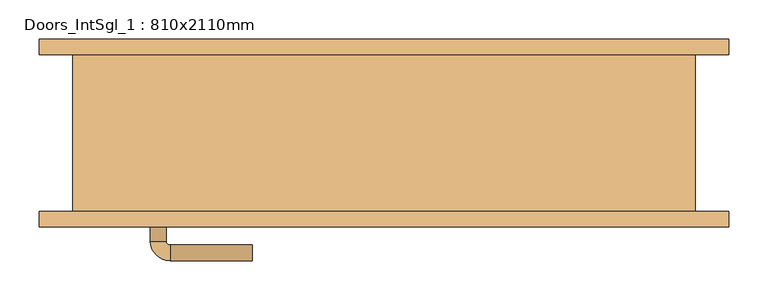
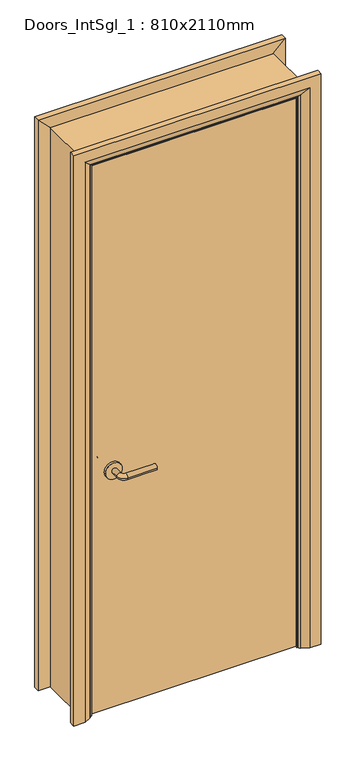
"""IFC4 building model written with IfcOpenShell, lengths in millimetres: door geometry, Doors_IntSgl_1 : 810x2110mm."""

import ifcopenshell
import ifcopenshell.guid

model = None  # the IFC model being written
_history = None  # IfcOwnerHistory: only IFC2X3 demands one
_inside = {}  # id of a spatial element -> (the spatial element, [elements in it])
_under = {}  # id of a project, library or spatial element -> (it, [spatial elements below it])
_declared = {}  # id of a project -> (the project, [libraries it declares])
_typed = {}  # id of a type object -> (the type object, [elements of that type])
_made_of = {}  # id of a material, layer set ... -> (it, [elements and type objects made of it])


def new_model(schema):
    """Start an empty IFC model of exactly this schema.

    Asked for "IFC4X3", IfcOpenShell would pick the latest addendum, in which some entities
    have other attributes; the version numbers below select the first issue.
    IFC2X3 requires an IfcOwnerHistory on every rooted entity: one is made here for all.
    """
    global model, _history
    if schema == "IFC4X3":
        model = ifcopenshell.file(schema_version=(4, 3, 0, 0))
    else:
        model = ifcopenshell.file(schema=schema)
    _inside.clear()
    _under.clear()
    _declared.clear()
    _typed.clear()
    _made_of.clear()
    _history = None
    if model.schema == "IFC2X3":
        org = make("IfcOrganization", Name="unknown")
        user = make(
            "IfcPersonAndOrganization",
            ThePerson=make("IfcPerson", FamilyName="unknown"),
            TheOrganization=org,
        )
        app = make(
            "IfcApplication",
            ApplicationDeveloper=org,
            Version="unknown",
            ApplicationFullName="unknown",
            ApplicationIdentifier="unknown",
        )
        _history = make(
            "IfcOwnerHistory",
            OwningUser=user,
            OwningApplication=app,
            ChangeAction="ADDED",
            CreationDate=0,
        )
    return model


def make(cls, **values):
    """One entity of the class cls with the attributes given. An attribute that is None is left unset."""
    return model.create_entity(
        cls, **{name: value for name, value in values.items() if value is not None}
    )


def rooted(cls, **values):
    """An entity with a GlobalId (a new one), such as an element, a storey or a relation."""
    return make(cls, GlobalId=ifcopenshell.guid.new(), OwnerHistory=_history, **values)


def si_unit(unit_type, name, prefix=None):
    """IfcSIUnit, for example si_unit("LENGTHUNIT", "METRE", prefix="MILLI")."""
    return make("IfcSIUnit", UnitType=unit_type, Prefix=prefix, Name=name)


def assignment(units):
    """IfcUnitAssignment: the units of a project."""
    return None if units is None else make("IfcUnitAssignment", Units=units)


def point(xyz):
    """IfcCartesianPoint."""
    return None if xyz is None else make("IfcCartesianPoint", Coordinates=xyz)


def direction(xyz):
    """IfcDirection."""
    return None if xyz is None else make("IfcDirection", DirectionRatios=xyz)


def frame(location, z_axis=None, x_axis=None):
    """IfcAxis2Placement3D, a coordinate frame: its origin and axes. An axis left out is left unset."""
    return make(
        "IfcAxis2Placement3D",
        Location=point(location),
        Axis=direction(z_axis),
        RefDirection=direction(x_axis),
    )


def frame_2d(location, x_axis=None):
    """IfcAxis2Placement2D, a coordinate frame in the plane: its origin and x axis."""
    return make(
        "IfcAxis2Placement2D", Location=point(location), RefDirection=direction(x_axis)
    )


def origin():
    """The frame at (0, 0, 0) with its axes left unset."""
    return frame((0.0, 0.0, 0.0))


def place(relative_to, where):
    """IfcLocalPlacement: puts the frame where relative to a parent placement (None: the world)."""
    return make(
        "IfcLocalPlacement", PlacementRelTo=relative_to, RelativePlacement=where
    )


def context(
    kind, dimensions, precision=None, world=None, true_north=None, identifier=None
):
    """IfcGeometricRepresentationContext, for example the 3D "Model" context."""
    return make(
        "IfcGeometricRepresentationContext",
        ContextIdentifier=identifier,
        ContextType=kind,
        CoordinateSpaceDimension=dimensions,
        Precision=precision,
        WorldCoordinateSystem=world,
        TrueNorth=true_north,
    )


def project(units=None, contexts=None):
    """IfcProject with its units and contexts."""
    return rooted(
        "IfcProject",
        Name="project",
        RepresentationContexts=contexts,
        UnitsInContext=assignment(units),
    )


def spatial(cls, under=None, at=None, **own):
    """A site, building, storey or space (cls), placed at a placement, below another one or the project."""
    s = rooted(cls, ObjectPlacement=at, **own)
    if under is not None:
        _under.setdefault(under.id(), (under, []))[1].append(s)
    return s


def polyline(points):
    """IfcPolyline through the points."""
    return make("IfcPolyline", Points=[point(p) for p in points])


def circle_curve(where, radius):
    """IfcCircle in the frame where."""
    return make("IfcCircle", Position=where, Radius=radius)


def ellipse_curve(where, semi_axis1, semi_axis2):
    """IfcEllipse in the frame where."""
    return make(
        "IfcEllipse", Position=where, SemiAxis1=semi_axis1, SemiAxis2=semi_axis2
    )


def trimmed(basis, trim1, trim2, sense, master):
    """IfcTrimmedCurve: the piece of a basis curve between two trims."""
    return make(
        "IfcTrimmedCurve",
        BasisCurve=basis,
        Trim1=trim1,
        Trim2=trim2,
        SenseAgreement=sense,
        MasterRepresentation=master,
    )


def segment(curve, same_sense, transition):
    """IfcCompositeCurveSegment."""
    return make(
        "IfcCompositeCurveSegment",
        Transition=transition,
        SameSense=same_sense,
        ParentCurve=curve,
    )


def composite_curve(segments, self_intersect=None):
    """IfcCompositeCurve: segments joined end to end."""
    return make("IfcCompositeCurve", Segments=segments, SelfIntersect=self_intersect)


def outline(outer, holes=None, kind="AREA"):
    """IfcArbitraryClosedProfileDef: a profile drawn as a closed curve; with holes, ...WithVoids."""
    if holes is None:
        return make("IfcArbitraryClosedProfileDef", ProfileType=kind, OuterCurve=outer)
    return make(
        "IfcArbitraryProfileDefWithVoids",
        ProfileType=kind,
        OuterCurve=outer,
        InnerCurves=holes,
    )


def extrude(swept, where, along, depth):
    """IfcExtrudedAreaSolid: the profile swept, set in the frame where, extruded along a direction by depth."""
    return make(
        "IfcExtrudedAreaSolid",
        SweptArea=swept,
        Position=where,
        ExtrudedDirection=direction(along),
        Depth=depth,
    )


def faces_of(points, faces, orient=None, outer=None):
    """IfcFace entities. A face is a list of loops; a loop is a list of indices into points, from 0.

    orient and outer hold one flag for each loop. By default every Orientation is true, the
    first loop of a face is its IfcFaceOuterBound and the others are IfcFaceBound.
    """
    made = []
    for i, loops in enumerate(faces):
        bounds = []
        for j, loop in enumerate(loops):
            is_outer = j == 0 if outer is None else outer[i][j]
            bounds.append(
                make(
                    "IfcFaceOuterBound" if is_outer else "IfcFaceBound",
                    Bound=make("IfcPolyLoop", Polygon=[points[k] for k in loop]),
                    Orientation=True if orient is None else orient[i][j],
                )
            )
        made.append(make("IfcFace", Bounds=bounds))
    return made


def faceted_brep(points, faces, orient=None, outer=None, voids=None):
    """IfcFacetedBrep: a solid bounded by flat faces; with voids (closed shells), ...WithVoids."""
    shared = [point(p) for p in points]
    hull = make("IfcClosedShell", CfsFaces=faces_of(shared, faces, orient, outer))
    if voids is None:
        return make("IfcFacetedBrep", Outer=hull)
    return make(
        "IfcFacetedBrepWithVoids",
        Outer=hull,
        Voids=[
            make(cls, CfsFaces=faces_of(shared, fs, o, b)) for cls, fs, o, b in voids
        ],
    )


def shape(context_of_items, identifier, shape_type, items):
    """IfcShapeRepresentation: the items that make up one representation, for example the "Body"."""
    return make(
        "IfcShapeRepresentation",
        ContextOfItems=context_of_items,
        RepresentationIdentifier=identifier,
        RepresentationType=shape_type,
        Items=items,
    )


def source(mapping_origin, context_of_items, identifier, shape_type, items):
    """IfcRepresentationMap: a shape defined once, which mapped items show again and again."""
    return make(
        "IfcRepresentationMap",
        MappingOrigin=mapping_origin,
        MappedRepresentation=shape(context_of_items, identifier, shape_type, items),
    )


def transform(
    local_origin,
    x_axis=None,
    y_axis=None,
    z_axis=None,
    scale=None,
    scale2=None,
    scale3=None,
    uniform=True,
):
    """IfcCartesianTransformationOperator3D, or its non-uniform kind. x_axis, y_axis, z_axis: its Axis1, 2, 3."""
    if uniform:
        return make(
            "IfcCartesianTransformationOperator3D",
            Axis1=direction(x_axis),
            Axis2=direction(y_axis),
            LocalOrigin=point(local_origin),
            Scale=scale,
            Axis3=direction(z_axis),
        )
    return make(
        "IfcCartesianTransformationOperator3DnonUniform",
        Axis1=direction(x_axis),
        Axis2=direction(y_axis),
        LocalOrigin=point(local_origin),
        Scale=scale,
        Axis3=direction(z_axis),
        Scale2=scale2,
        Scale3=scale3,
    )


def mapped(mapping_source, mapping_target):
    """IfcMappedItem: shows the shape of a source again, moved by a transform."""
    return make(
        "IfcMappedItem", MappingSource=mapping_source, MappingTarget=mapping_target
    )


def made_of(thing, what):
    """Note that an element or type object is made of a material, layer set ...; save() writes the relation."""
    if what is not None:
        _made_of.setdefault(what.id(), (what, []))[1].append(thing)
    return thing


def element(
    cls,
    number,
    at=None,
    inside=None,
    cuts=None,
    type_object=None,
    material=None,
    context=None,
    identifier="Body",
    shape_type=None,
    held_by="IfcProductDefinitionShape",
    body=None,
    shapes=None,
    **own,
):
    """One element of the class cls, such as IfcWall. Its Tag is "e" and its number.

    at: its placement. inside: the storey or other place that contains it. cuts: it is an
    opening in that element (IfcRelVoidsElement). A single representation is given by context,
    identifier, shape_type and body (its items); several are given by shapes. held_by: the class
    of the entity that holds the representations. save() writes the other relations.
    """
    e = rooted(cls, Tag="e%d" % number, ObjectPlacement=at, **own)
    if body is not None:
        shapes = [shape(context, identifier, shape_type, body)]
    if shapes is not None:
        e.Representation = make(held_by, Representations=shapes)
    if inside is not None:
        _inside.setdefault(inside.id(), (inside, []))[1].append(e)
    if cuts is not None:
        rooted(
            "IfcRelVoidsElement", RelatingBuildingElement=cuts, RelatedOpeningElement=e
        )
    if type_object is not None:
        _typed.setdefault(type_object.id(), (type_object, []))[1].append(e)
    return made_of(e, material)


def aggregate(whole, parts):
    """IfcRelAggregates: a whole, such as a stair, and the parts it consists of."""
    return rooted("IfcRelAggregates", RelatingObject=whole, RelatedObjects=parts)


def save(model, path):
    """Write the relations noted so far, then the file.

    IfcRelAggregates (storeys below a building ...), IfcRelContainedInSpatialStructure (elements
    in a storey), IfcRelDefinesByType, IfcRelAssociatesMaterial and IfcRelDeclares: one each for
    every whole, place, type object, material and project.
    """
    for whole, parts in _under.values():
        aggregate(whole, parts)
    for where, things in _inside.values():
        rooted(
            "IfcRelContainedInSpatialStructure",
            RelatedElements=things,
            RelatingStructure=where,
        )
    for kind, things in _typed.values():
        rooted("IfcRelDefinesByType", RelatedObjects=things, RelatingType=kind)
    for what, things in _made_of.values():
        rooted("IfcRelAssociatesMaterial", RelatedObjects=things, RelatingMaterial=what)
    for by, libraries in _declared.values():
        rooted("IfcRelDeclares", RelatingContext=by, RelatedDefinitions=libraries)
    model.write(path)


def plane_surface(at):
    """IfcPlane: the flat surface through the origin of the frame at, square to its z axis."""
    return make("IfcPlane", Position=at)


def cylinder_surface(at, radius):
    """IfcCylindricalSurface: all points at the distance radius from the z axis of the frame at."""
    return make("IfcCylindricalSurface", Position=at, Radius=radius)


def revolved_surface(curve, axis_point, axis_direction):
    """IfcSurfaceOfRevolution: the curve turned about the line through axis_point along axis_direction."""
    return make(
        "IfcSurfaceOfRevolution",
        SweptCurve=make("IfcArbitraryOpenProfileDef", ProfileType="CURVE", Curve=curve),
        AxisPosition=make("IfcAxis1Placement", Location=point(axis_point), Axis=direction(axis_direction)),
    )


def advanced_brep(points, edges, surfaces, faces):
    """IfcAdvancedBrep: a solid bounded by faces that lie on surfaces and meet in shared edges.

    An edge is (start, end): straight between two places in points (the first is 0);
    or (start, end, curve); or (start, end, curve, False) where it runs against its curve.
    A face is (place in surfaces, loops), or (place, loops, False) where it looks against
    its surface's normal. A loop lists edges by number (the first is 1), with a minus sign
    where the edge is run from its end to its start. The first loop is the outer one.
    """
    corners = [point(p) for p in points]
    vertices = [make("IfcVertexPoint", VertexGeometry=c) for c in corners]
    made = []
    for start, end, *more in edges:
        made.append(
            make(
                "IfcEdgeCurve",
                EdgeStart=vertices[start],
                EdgeEnd=vertices[end],
                EdgeGeometry=more[0] if more else make("IfcPolyline", Points=[corners[start], corners[end]]),
                SameSense=more[1] if len(more) > 1 else True,
            )
        )
    hull = []
    for where, loops, *sense in faces:
        bounds = []
        for j, loop in enumerate(loops):
            ring = [make("IfcOrientedEdge", EdgeElement=made[abs(k) - 1], Orientation=k > 0) for k in loop]
            bounds.append(
                make(
                    "IfcFaceOuterBound" if j == 0 else "IfcFaceBound",
                    Bound=make("IfcEdgeLoop", EdgeList=ring),
                    Orientation=True,
                )
            )
        hull.append(make("IfcAdvancedFace", Bounds=bounds, FaceSurface=surfaces[where], SameSense=sense[0] if sense else True))
    return make("IfcAdvancedBrep", Outer=make("IfcClosedShell", CfsFaces=hull))


def doors_intsgl_1_810x2110mm_70afc9f2(model_context):
    return source(origin(), model_context, "Body", "SolidModel", [
        advanced_brep(
        [(-298.0, -54.0, 900.0), (-278.0, -54.0, 900.0), (-298.0, -24.0, 900.0), (-278.0, -24.0, 900.0), (-273.0, -19.0, 900.0), (-273.0, 1.0, 900.0), (-168.0, 1.0, 900.0), (-168.0, -19.0, 900.0)],
        [
            (0, 1, circle_curve(frame((-288.0, -54.0, 900.0), z_axis=(0.0, -1.0, 0.0), x_axis=(1.0, 0.0, 0.0)), 10.0)),
            (1, 0, circle_curve(frame((-288.0, -54.0, 900.0), z_axis=(0.0, -1.0, 0.0), x_axis=(1.0, 0.0, 0.0)), 10.0)),
            (0, 2),
            (2, 3, circle_curve(frame((-288.0, -24.0, 900.0), z_axis=(0.0, -1.0, 0.0), x_axis=(1.0, 0.0, 0.0)), 10.0)),
            (3, 1),
            (3, 2, circle_curve(frame((-288.0, -24.0, 900.0), z_axis=(0.0, -1.0, 0.0), x_axis=(1.0, 0.0, 0.0)), 10.0)),
            (4, 3, circle_curve(frame((-273.0, -24.0, 900.0), z_axis=(0.0, 0.0, 1.0), x_axis=(-1.0, 0.0, 0.0)), 5.0)),
            (2, 5, circle_curve(frame((-273.0, -24.0, 900.0), z_axis=(0.0, 0.0, -1.0), x_axis=(-1.0, 0.0, 0.0)), 25.0)),
            (5, 4, circle_curve(frame((-273.0, -9.0, 900.0), z_axis=(-1.0, 0.0, 0.0), x_axis=(0.0, -1.0, 0.0)), 10.0)),
            (4, 5, circle_curve(frame((-273.0, -9.0, 900.0), z_axis=(-1.0, 0.0, 0.0), x_axis=(0.0, -1.0, 0.0)), 10.0)),
            (6, 7, circle_curve(frame((-168.0, -9.0, 900.0), z_axis=(1.0, 0.0, 0.0), x_axis=(0.0, -1.0, 0.0)), 10.0)),
            (7, 6, circle_curve(frame((-168.0, -9.0, 900.0), z_axis=(1.0, 0.0, 0.0), x_axis=(0.0, -1.0, 0.0)), 10.0)),
            (5, 6),
            (7, 4),
        ],
        [
            plane_surface(frame((-288.0, -54.0, 900.0), z_axis=(0.0, -1.0, 0.0), x_axis=(0.0, 0.0, 1.0))),
            cylinder_surface(frame((-288.0, -54.0, 900.0), z_axis=(0.0, -1.0, 0.0), x_axis=(1.0, 0.0, 0.0)), 10.0),
            revolved_surface(trimmed(ellipse_curve(frame((-288.0, -24.0, 900.0), z_axis=(0.0, -1.0, 0.0), x_axis=(1.0, 0.0, 0.0)), 10.0, 10.0), [point((-298.0, -24.0, 900.0))], [point((-278.0, -24.0, 900.0))], True, "CARTESIAN"), (-273.0, -24.0, 900.0), (0.0, 0.0, -1.0)),
            revolved_surface(trimmed(ellipse_curve(frame((-288.0, -24.0, 900.0), z_axis=(0.0, -1.0, 0.0), x_axis=(1.0, 0.0, 0.0)), 10.0, 10.0), [point((-278.0, -24.0, 900.0))], [point((-298.0, -24.0, 900.0))], True, "CARTESIAN"), (-273.0, -24.0, 900.0), (0.0, 0.0, -1.0)),
            plane_surface(frame((-168.0, -9.0, 900.0), z_axis=(1.0, 0.0, 0.0), x_axis=(0.0, 0.0, 1.0))),
            cylinder_surface(frame((-273.0, -9.0, 900.0), z_axis=(-1.0, 0.0, 0.0), x_axis=(0.0, -1.0, 0.0)), 10.0),
        ],
        [
            (0, [[1, 2]]),
            (1, [[-1, 3, 4, 5]]),
            (1, [[-2, -5, 6, -3]]),
            (2, [[7, -4, 8, 9]]),
            (3, [[-8, -6, -7, 10]]),
            (4, [[11, 12]]),
            (5, [[-9, 13, -12, 14]]),
            (5, [[-10, -14, -11, -13]]),
        ],
    ),
        extrude(outline(composite_curve([segment(trimmed(circle_curve(frame_2d((900.0, -290.5)), 30.0), [point((900.0, -320.5))], [point((900.0, -260.5))], False, "CARTESIAN"), True, "CONTINUOUS"), segment(trimmed(circle_curve(frame_2d((900.0, -290.5)), 30.0), [point((900.0, -260.5))], [point((900.0, -320.5))], False, "CARTESIAN"), True, "CONTINUOUS")], self_intersect=False)), frame((0.0, -62.0, 0.0), z_axis=(0.0, 1.0, 0.0), x_axis=(0.0, 0.0, 1.0)), (0.0, 0.0, 1.0), 8.0),
        advanced_brep(
        [(-298.0, -108.0, 900.0), (-278.0, -108.0, 900.0), (-278.0, -138.0, 900.0), (-298.0, -138.0, 900.0), (-273.0, -143.0, 900.0), (-273.0, -163.0, 900.0), (-168.0, -163.0, 900.0), (-168.0, -143.0, 900.0)],
        [
            (0, 1, circle_curve(frame((-288.0, -108.0, 900.0), z_axis=(0.0, 1.0, 0.0), x_axis=(1.0, 0.0, 0.0)), 10.0)),
            (1, 0, circle_curve(frame((-288.0, -108.0, 900.0), z_axis=(0.0, 1.0, 0.0), x_axis=(1.0, 0.0, 0.0)), 10.0)),
            (1, 2),
            (2, 3, circle_curve(frame((-288.0, -138.0, 900.0), z_axis=(0.0, 1.0, 0.0), x_axis=(1.0, 0.0, 0.0)), 10.0)),
            (3, 0),
            (3, 2, circle_curve(frame((-288.0, -138.0, 900.0), z_axis=(0.0, 1.0, 0.0), x_axis=(1.0, 0.0, 0.0)), 10.0)),
            (4, 5, circle_curve(frame((-273.0, -153.0, 900.0), z_axis=(-1.0, 0.0, 0.0), x_axis=(0.0, 1.0, 0.0)), 10.0)),
            (5, 3, circle_curve(frame((-273.0, -138.0, 900.0), z_axis=(0.0, 0.0, -1.0), x_axis=(-1.0, 0.0, 0.0)), 25.0)),
            (2, 4, circle_curve(frame((-273.0, -138.0, 900.0), z_axis=(0.0, 0.0, 1.0), x_axis=(-1.0, 0.0, 0.0)), 5.0)),
            (5, 4, circle_curve(frame((-273.0, -153.0, 900.0), z_axis=(-1.0, 0.0, 0.0), x_axis=(0.0, 1.0, 0.0)), 10.0)),
            (6, 7, circle_curve(frame((-168.0, -153.0, 900.0), z_axis=(1.0, 0.0, 0.0), x_axis=(0.0, 1.0, 0.0)), 10.0)),
            (7, 6, circle_curve(frame((-168.0, -153.0, 900.0), z_axis=(1.0, 0.0, 0.0), x_axis=(0.0, 1.0, 0.0)), 10.0)),
            (4, 7),
            (6, 5),
        ],
        [
            plane_surface(frame((-288.0, -108.0, 900.0), z_axis=(0.0, 1.0, 0.0), x_axis=(0.0, 0.0, 1.0))),
            cylinder_surface(frame((-288.0, -108.0, 900.0), z_axis=(0.0, 1.0, 0.0), x_axis=(1.0, 0.0, 0.0)), 10.0),
            revolved_surface(trimmed(ellipse_curve(frame((-288.0, -138.0, 900.0), z_axis=(0.0, -1.0, 0.0), x_axis=(1.0, 0.0, 0.0)), 10.0, 10.0), [point((-298.0, -138.0, 900.0))], [point((-278.0, -138.0, 900.0))], True, "CARTESIAN"), (-273.0, -138.0, 900.0), (0.0, 0.0, -1.0)),
            revolved_surface(trimmed(ellipse_curve(frame((-288.0, -138.0, 900.0), z_axis=(0.0, -1.0, 0.0), x_axis=(1.0, 0.0, 0.0)), 10.0, 10.0), [point((-278.0, -138.0, 900.0))], [point((-298.0, -138.0, 900.0))], True, "CARTESIAN"), (-273.0, -138.0, 900.0), (0.0, 0.0, -1.0)),
            plane_surface(frame((-168.0, -153.0, 900.0), z_axis=(1.0, 0.0, 0.0), x_axis=(0.0, 0.0, 1.0))),
            cylinder_surface(frame((-273.0, -153.0, 900.0), z_axis=(-1.0, 0.0, 0.0), x_axis=(0.0, 1.0, 0.0)), 10.0),
        ],
        [
            (0, [[1, 2]]),
            (1, [[3, 4, 5, -2]]),
            (1, [[-5, 6, -3, -1]]),
            (2, [[7, 8, -4, 9]]),
            (3, [[10, -9, -6, -8]]),
            (4, [[11, 12]]),
            (5, [[13, -11, 14, -7]]),
            (5, [[-14, -12, -13, -10]]),
        ],
    ),
        extrude(outline(composite_curve([segment(trimmed(circle_curve(frame_2d((900.0, -290.5)), 30.0), [point((900.0, -320.5))], [point((900.0, -260.5))], False, "CARTESIAN"), True, "CONTINUOUS"), segment(trimmed(circle_curve(frame_2d((900.0, -290.5)), 30.0), [point((900.0, -260.5))], [point((900.0, -320.5))], False, "CARTESIAN"), True, "CONTINUOUS")], self_intersect=False)), frame((0.0, -108.0, 0.0), z_axis=(0.0, 1.0, 0.0), x_axis=(0.0, 0.0, 1.0)), (0.0, 0.0, 1.0), 8.0),
        extrude(outline(polyline([(363.0, -62.0), (363.0, -100.0), (-363.0, -100.0), (-363.0, -62.0), (363.0, -62.0)])), frame((0.0, 0.0, 8.0), z_axis=(0.0, 0.0, 1.0), x_axis=(1.0, 0.0, 0.0)), (0.0, 0.0, 1.0), 2060.0),
        advanced_brep(
        [(440.0, -120.0, 0.0), (400.0, -120.0, 0.0), (374.0, -106.0, 0.0), (370.0, -100.0, 0.0), (440.0, -100.0, 0.0), (440.0, -100.0, 2145.0), (440.0, -120.0, 2145.0), (370.0, -100.0, 2075.0), (-370.0, -100.0, 2075.0), (-370.0, -100.0, 0.0), (-440.0, -100.0, 0.0), (-440.0, -100.0, 2145.0), (374.0, -106.0, 2079.0), (400.0, -120.0, 2105.0), (-440.0, -120.0, 2145.0), (-440.0, -120.0, 0.0), (-400.0, -120.0, 0.0), (-400.0, -120.0, 2105.0), (-374.0, -106.0, 0.0), (-374.0, -106.0, 2079.0)],
        [
            (0, 1),
            (1, 2),
            (2, 3, circle_curve(frame((378.0, -99.0, 0.0), z_axis=(0.0, 0.0, -1.0), x_axis=(1.0, 0.0, 0.0)), 8.0622577)),
            (3, 4),
            (4, 0),
            (4, 5),
            (5, 6),
            (6, 0),
            (3, 7),
            (7, 8),
            (8, 9),
            (9, 10),
            (10, 11),
            (11, 5),
            (2, 12),
            (12, 7, ellipse_curve(frame((378.0, -99.0, 2083.0), z_axis=(0.7071067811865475, 0.0, -0.7071067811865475), x_axis=(-0.7071067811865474, 0.0, -0.7071067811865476)), 11.4017543, 8.0622577)),
            (1, 13),
            (13, 12),
            (6, 14),
            (14, 15),
            (15, 16),
            (16, 17),
            (17, 13),
            (10, 15),
            (14, 11),
            (9, 18, circle_curve(frame((-378.0, -99.0, 0.0), z_axis=(0.0, 0.0, -1.0), x_axis=(-1.0, 0.0, 0.0)), 8.0622577)),
            (18, 16),
            (19, 18),
            (8, 19, ellipse_curve(frame((-378.0, -99.0, 2083.0), z_axis=(-0.7071067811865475, 0.0, -0.7071067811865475), x_axis=(-0.7071067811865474, 0.0, 0.7071067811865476)), 11.4017543, 8.0622577)),
            (19, 17),
            (12, 19),
        ],
        [
            plane_surface(frame((370.0, -100.0, 0.0), z_axis=(0.0, 0.0, -1.0), x_axis=(0.0, 1.0, 0.0))),
            plane_surface(frame((440.0, -120.0, 0.0), z_axis=(1.0, 0.0, 0.0), x_axis=(0.0, 0.0, 1.0))),
            plane_surface(frame((440.0, -100.0, 0.0), z_axis=(0.0, 1.0, 0.0), x_axis=(0.0, 0.0, 1.0))),
            cylinder_surface(frame((378.0, -99.0, 0.0), z_axis=(0.0, 0.0, -1.0), x_axis=(1.0, 0.0, 0.0)), 8.0622577),
            plane_surface(frame((374.0, -106.0, 0.0), z_axis=(-0.4740998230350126, -0.880471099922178, 0.0), x_axis=(0.0, 0.0, 1.0))),
            plane_surface(frame((400.0, -120.0, 0.0), z_axis=(0.0, -1.0, 0.0), x_axis=(0.0, 0.0, 1.0))),
            plane_surface(frame((-440.0, -120.0, 2145.0), z_axis=(-1.0, 0.0, 0.0), x_axis=(0.0, 0.0, -1.0))),
            plane_surface(frame((-370.0, -100.0, 0.0), z_axis=(0.0, 0.0, -1.0), x_axis=(0.0, 1.0, 0.0))),
            cylinder_surface(frame((-378.0, -99.0, 2075.0), z_axis=(0.0, 0.0, 1.0), x_axis=(-1.0, 0.0, 0.0)), 8.0622577),
            plane_surface(frame((-374.0, -106.0, 2079.0), z_axis=(0.47409982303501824, -0.8804710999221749, 0.0), x_axis=(0.0, 0.0, -1.0))),
            plane_surface(frame((440.0, -120.0, 2145.0), z_axis=(0.0, 0.0, 1.0), x_axis=(-1.0, 0.0, 0.0))),
            cylinder_surface(frame((370.0, -99.0, 2083.0), z_axis=(1.0, 0.0, 0.0), x_axis=(0.0, 0.0, 1.0)), 8.0622577),
            plane_surface(frame((374.0, -106.0, 2079.0), z_axis=(0.0, -0.8804710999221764, -0.4740998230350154), x_axis=(-1.0, 0.0, 0.0))),
        ],
        [
            (0, [[1, 2, 3, 4, 5]]),
            (1, [[6, 7, 8, -5]]),
            (2, [[9, 10, 11, 12, 13, 14, -6, -4]]),
            (3, [[15, 16, -9, -3]]),
            (4, [[17, 18, -15, -2]]),
            (5, [[-8, 19, 20, 21, 22, 23, -17, -1]]),
            (6, [[-13, 24, -20, 25]]),
            (7, [[-24, -12, 26, 27, -21]]),
            (8, [[28, -26, -11, 29]]),
            (9, [[-22, -27, -28, 30]]),
            (10, [[-14, -25, -19, -7]]),
            (11, [[31, -29, -10, -16]]),
            (12, [[-23, -30, -31, -18]]),
        ],
    ),
        extrude(outline(polyline([(0.0, -346.0), (2051.0, -346.0), (2051.0, 346.0), (0.0, 346.0), (0.0, 365.0), (2070.0, 365.0), (2070.0, -365.0), (0.0, -365.0), (0.0, -346.0)])), frame((0.0, -60.0, 0.0), z_axis=(0.0, 1.0, 0.0), x_axis=(0.0, 0.0, 1.0)), (0.0, 0.0, 1.0), 32.0),
        advanced_brep(
        [(-440.0, 120.0, 0.0), (-400.0, 120.0, 0.0), (-374.0, 106.0, 0.0), (-370.0, 100.0, 0.0), (-440.0, 100.0, 0.0), (-440.0, 100.0, 2145.0), (-440.0, 120.0, 2145.0), (-370.0, 100.0, 2075.0), (-374.0, 106.0, 2079.0), (-400.0, 120.0, 2105.0), (440.0, 120.0, 0.0), (440.0, 100.0, 0.0), (370.0, 100.0, 0.0), (374.0, 106.0, 0.0), (400.0, 120.0, 0.0), (440.0, 120.0, 2145.0), (400.0, 120.0, 2105.0), (374.0, 106.0, 2079.0), (370.0, 100.0, 2075.0), (440.0, 100.0, 2145.0)],
        [
            (0, 1),
            (1, 2),
            (2, 3, circle_curve(frame((-378.0, 99.0, 0.0), z_axis=(0.0, 0.0, -1.0), x_axis=(-1.0, 0.0, 0.0)), 8.0622577)),
            (3, 4),
            (4, 0),
            (4, 5),
            (5, 6),
            (6, 0),
            (3, 7),
            (7, 5),
            (2, 8),
            (8, 7, ellipse_curve(frame((-378.0, 99.0, 2083.0), z_axis=(-0.7071067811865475, 0.0, -0.7071067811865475), x_axis=(0.7071067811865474, 0.0, -0.7071067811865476)), 11.4017543, 8.0622577)),
            (1, 9),
            (9, 8),
            (6, 9),
            (10, 11),
            (11, 12),
            (12, 13, circle_curve(frame((378.0, 99.0, 0.0), z_axis=(0.0, 0.0, -1.0), x_axis=(1.0, 0.0, 0.0)), 8.0622577)),
            (13, 14),
            (14, 10),
            (15, 10),
            (14, 16),
            (16, 15),
            (13, 17),
            (17, 16),
            (12, 18),
            (18, 17, ellipse_curve(frame((378.0, 99.0, 2083.0), z_axis=(0.7071067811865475, 0.0, -0.7071067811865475), x_axis=(0.7071067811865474, 0.0, 0.7071067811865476)), 11.4017543, 8.0622577)),
            (11, 19),
            (19, 18),
            (15, 19),
            (5, 19),
            (15, 6),
            (7, 18),
            (8, 17),
            (9, 16),
        ],
        [
            plane_surface(frame((-370.0, 172.8010989, 0.0), z_axis=(0.0, 0.0, -1.0), x_axis=(1.0, 0.0, 0.0))),
            plane_surface(frame((-440.0, 120.0, 0.0), z_axis=(-1.0, 0.0, 0.0), x_axis=(0.0, 0.0, 1.0))),
            plane_surface(frame((-440.0, 100.0, 0.0), z_axis=(0.0, -1.0, 0.0), x_axis=(0.0, 0.0, 1.0))),
            cylinder_surface(frame((-378.0, 99.0, 0.0), z_axis=(0.0, 0.0, -1.0), x_axis=(-1.0, 0.0, 0.0)), 8.0622577),
            plane_surface(frame((-374.0, 106.0, 0.0), z_axis=(0.4740998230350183, 0.8804710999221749, 0.0), x_axis=(0.0, 0.0, 1.0))),
            plane_surface(frame((-400.0, 120.0, 0.0), z_axis=(0.0, 1.0, 0.0), x_axis=(0.0, 0.0, 1.0))),
            plane_surface(frame((370.0, 172.8010989, 0.0), z_axis=(0.0, 0.0, -1.0), x_axis=(-1.0, 0.0, 0.0))),
            plane_surface(frame((400.0, 120.0, 2105.0), z_axis=(0.0, 1.0, 0.0), x_axis=(0.0, 0.0, -1.0))),
            plane_surface(frame((374.0, 106.0, 2079.0), z_axis=(-0.4740998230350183, 0.8804710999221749, 0.0), x_axis=(0.0, 0.0, -1.0))),
            cylinder_surface(frame((378.0, 99.0, 2075.0), z_axis=(0.0, 0.0, 1.0), x_axis=(1.0, 0.0, 0.0)), 8.0622577),
            plane_surface(frame((440.0, 100.0, 2145.0), z_axis=(0.0, -1.0, 0.0), x_axis=(0.0, 0.0, -1.0))),
            plane_surface(frame((440.0, 120.0, 2145.0), z_axis=(1.0, 0.0, 0.0), x_axis=(0.0, 0.0, -1.0))),
            plane_surface(frame((-440.0, 120.0, 2145.0), z_axis=(0.0, 0.0, 1.0), x_axis=(1.0, 0.0, 0.0))),
            plane_surface(frame((-440.0, 100.0, 2145.0), z_axis=(0.0, -1.0, 0.0), x_axis=(1.0, 0.0, 0.0))),
            cylinder_surface(frame((-370.0, 99.0, 2083.0), z_axis=(-1.0, 0.0, 0.0), x_axis=(0.0, 0.0, 1.0)), 8.0622577),
            plane_surface(frame((-374.0, 106.0, 2079.0), z_axis=(0.0, 0.8804710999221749, -0.4740998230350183), x_axis=(1.0, 0.0, 0.0))),
            plane_surface(frame((-400.0, 120.0, 2105.0), z_axis=(0.0, 1.0, 0.0), x_axis=(1.0, 0.0, 0.0))),
        ],
        [
            (0, [[1, 2, 3, 4, 5]]),
            (1, [[6, 7, 8, -5]]),
            (2, [[9, 10, -6, -4]]),
            (3, [[11, 12, -9, -3]]),
            (4, [[13, 14, -11, -2]]),
            (5, [[-8, 15, -13, -1]]),
            (6, [[16, 17, 18, 19, 20]]),
            (7, [[21, -20, 22, 23]]),
            (8, [[-22, -19, 24, 25]]),
            (9, [[-24, -18, 26, 27]]),
            (10, [[-26, -17, 28, 29]]),
            (11, [[-28, -16, -21, 30]]),
            (12, [[31, -30, 32, -7]]),
            (13, [[33, -29, -31, -10]]),
            (14, [[34, -27, -33, -12]]),
            (15, [[35, -25, -34, -14]]),
            (16, [[-32, -23, -35, -15]]),
        ],
    ),
        faceted_brep([(-365.0, -100.0, 0.0), (-397.0, -100.0, 0.0), (-397.0, 100.0, 0.0), (-365.0, 100.0, 0.0), (-365.0, 100.0, 2070.0), (-365.0, -100.0, 2070.0), (-397.0, 100.0, 2102.0), (-397.0, -100.0, 2102.0), (365.0, -100.0, 0.0), (365.0, 100.0, 0.0), (397.0, 100.0, 0.0), (397.0, -100.0, 0.0), (365.0, -100.0, 2070.0), (397.0, -100.0, 2102.0), (397.0, 100.0, 2102.0), (365.0, 100.0, 2070.0)], [[[0, 1, 2, 3]], [[3, 4, 5, 0]], [[2, 6, 4, 3]], [[1, 7, 6, 2]], [[0, 5, 7, 1]], [[8, 9, 10, 11]], [[12, 8, 11, 13]], [[13, 11, 10, 14]], [[14, 10, 9, 15]], [[15, 9, 8, 12]], [[4, 15, 12, 5]], [[6, 14, 15, 4]], [[7, 13, 14, 6]], [[5, 12, 13, 7]]]),
    ])


if __name__ == "__main__":
    model = new_model("IFC4")
    model_context = context("Model", 3, world=origin())
    ifc_project = project(units=[si_unit("LENGTHUNIT", "METRE", prefix="MILLI")], contexts=[model_context])
    site = spatial("IfcSite", under=ifc_project)
    building = spatial("IfcBuilding", under=site)
    placement = place(None, origin())
    doors_intsgl_1_810x2110mm_shape = doors_intsgl_1_810x2110mm_70afc9f2(model_context)
    element("IfcDoor", 1, ObjectType="Doors_IntSgl_1 : 810x2110mm", at=placement, inside=building, context=model_context, shape_type="MappedRepresentation", body=[
        mapped(doors_intsgl_1_810x2110mm_shape, transform((0.0, 0.0, 0.0), x_axis=(1.0, 0.0, 0.0), y_axis=(0.0, 1.0, 0.0), z_axis=(0.0, 0.0, 1.0))),
    ])
    save(model, "model.ifc")
